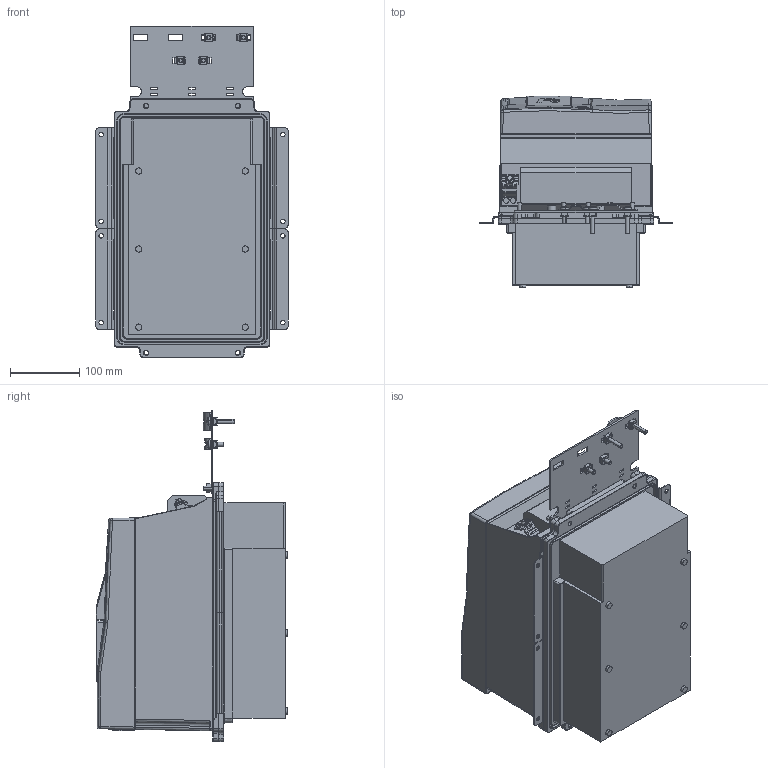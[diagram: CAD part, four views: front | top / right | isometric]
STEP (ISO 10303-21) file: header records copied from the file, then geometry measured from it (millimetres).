
FILE_DESCRIPTION (( 'STEP AP214' ), '1' );
FILE_NAME ('10045824_000.STEP', '2020-12-23T09:50:36', ( '' ), ( '' ), 'SwSTEP 2.0', 'SolidWorks 2019', '' );
FILE_SCHEMA (( 'AUTOMOTIVE_DESIGN' ));
Length unit declared in the file: millimetre
Products named in the file (13): 10045811_000_Leistungsteil TR5 (Kundenmodell); 10058448_000; 10061644_000_Deckel (Kundenmodell); 10044453_000_Schirmung (Kundenmodell); 10032600_000_Kundenmodell; 10045824_000; 10059765_000; 10059764_000_Blindabdeckung (Kundenmodell); 10063070_000; 10061645_000; 10035736_000_Kundenmodell; 10061787_000; 10059763_000
Assembly tree (12 placements, depth 4):
  10045824_000
    10045811_000_Leistungsteil TR5 (Kundenmodell)
      10061787_000
    10032600_000_Kundenmodell
      10061644_000_Deckel (Kundenmodell)
        10061645_000
      10058448_000
    10035736_000_Kundenmodell
      10059764_000_Blindabdeckung (Kundenmodell)
        10059765_000
      10059763_000
    10044453_000_Schirmung (Kundenmodell)
      10063070_000
Bounding box: 277 x 276.2 x 477.5 mm (x, y, z)
Volume: 17538625.3 mm3; surface area: 953236.8 mm2
Topology: 15 solids, 36 shells, 3519 faces, 9253 edges, 5828 vertices
Faces by surface type: plane 1575, cylinder 1011, bspline 555, torus 190, cone 140, sphere 48
Entity records: 131617 total; most frequent: CARTESIAN_POINT 47172, ORIENTED_EDGE 18388, DIRECTION 16101, EDGE_CURVE 9194, VERTEX_POINT 5826, AXIS2_PLACEMENT_3D 5427, VECTOR 5247, LINE 5247
